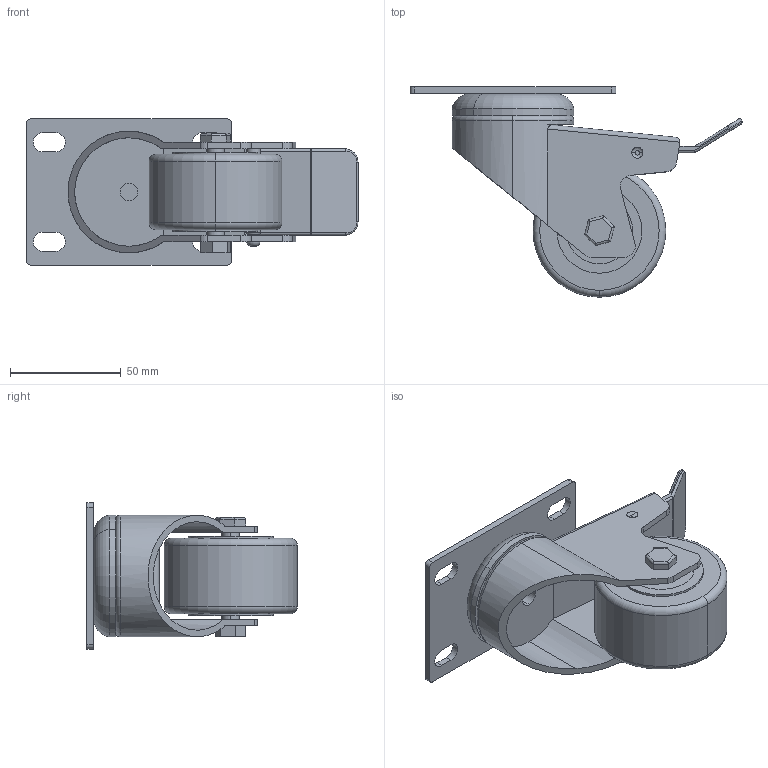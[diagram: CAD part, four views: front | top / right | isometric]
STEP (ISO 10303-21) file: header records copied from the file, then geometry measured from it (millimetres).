
FILE_DESCRIPTION (( 'STEP AP203' ), '1' );
FILE_NAME ('232-CE-CAT-2.5.STEP', '2015-07-09T09:34:37', ( '' ), ( '' ), 'SwSTEP 2.0', 'SolidWorks 2013', '' );
FILE_SCHEMA (( 'CONFIG_CONTROL_DESIGN' ));
Length unit declared in the file: millimetre
Products named in the file (1): 232-CE-CAT-2.5
Bounding box: 150.04 x 95 x 66 mm (x, y, z)
Surface area: 61744.3 mm2 (no closed solid volume)
Topology: 0 solids, 10 shells, 155 faces, 412 edges, 272 vertices
Faces by surface type: cylinder 74, plane 62, torus 13, bspline 4, sphere 2
Entity records: 5094 total; most frequent: CARTESIAN_POINT 1134, DIRECTION 846, ORIENTED_EDGE 761, EDGE_CURVE 410, AXIS2_PLACEMENT_3D 320, VERTEX_POINT 272, LINE 206, VECTOR 206
